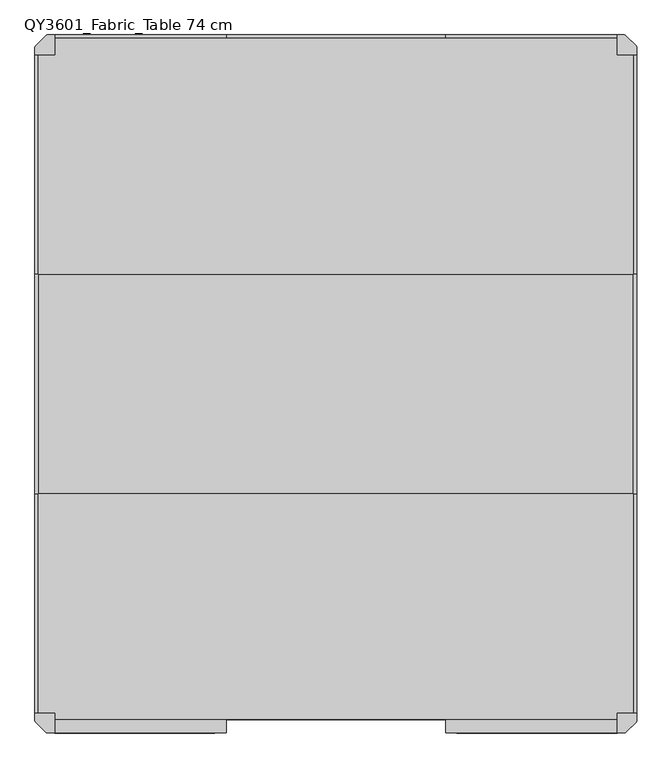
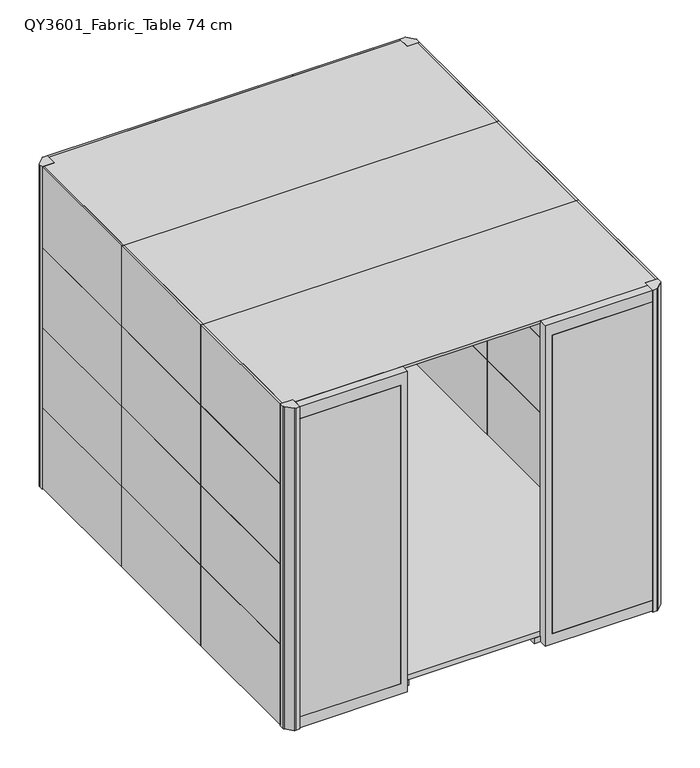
"""IFC4 building model written with IfcOpenShell, lengths in millimetres: furniture geometry, Qyos_600 : QY3601_Fabric_Table 74 cm."""

from ifc_helpers import new_model, si_unit, point, frame, frame_2d, origin, origin_with_axes, place, context, project, spatial, polyline, circle_curve, trimmed, segment, composite_curve, outline, extrude, source, transform, mapped, element, save
from ifc_brep_helpers import plane_surface, cylinder_surface, advanced_brep


def qy3601_fabric_table_74_cm_a77ddb9f(model_context):
    return source(origin(), model_context, "Body", "SolidModel", [
        advanced_brep(
        [(1048.8585356, 1272.0, 0.0), (1095.1414644, 1272.0, 0.0), (1072.0, 1272.0, 0.0), (1048.8585356, 1272.0, 7.0), (1095.1414644, 1272.0, 7.0), (1062.3615446, 1272.0, 7.0), (1081.6384554, 1272.0, 7.0), (1062.3615446, 1272.0, 17.0), (1081.6384554, 1272.0, 17.0), (1072.0, 1272.0, 17.0)],
        [
            (0, 1, circle_curve(frame((1072.0, 1272.0, 0.0), z_axis=(0.0, 0.0, -1.0), x_axis=(1.0, 0.0, 0.0)), 23.1414644)),
            (1, 2),
            (2, 0),
            (1, 0, circle_curve(frame((1072.0, 1272.0, 0.0), z_axis=(0.0, 0.0, -1.0), x_axis=(1.0, 0.0, 0.0)), 23.1414644)),
            (3, 4, circle_curve(frame((1072.0, 1272.0, 7.0), z_axis=(0.0, 0.0, -1.0), x_axis=(1.0, 0.0, 0.0)), 23.1414644)),
            (4, 1),
            (0, 3),
            (4, 3, circle_curve(frame((1072.0, 1272.0, 7.0), z_axis=(0.0, 0.0, -1.0), x_axis=(1.0, 0.0, 0.0)), 23.1414644)),
            (5, 6, circle_curve(frame((1072.0, 1272.0, 7.0), z_axis=(0.0, 0.0, -1.0), x_axis=(1.0, 0.0, 0.0)), 9.6384554)),
            (6, 4),
            (3, 5),
            (6, 5, circle_curve(frame((1072.0, 1272.0, 7.0), z_axis=(0.0, 0.0, -1.0), x_axis=(1.0, 0.0, 0.0)), 9.6384554)),
            (7, 8, circle_curve(frame((1072.0, 1272.0, 17.0), z_axis=(0.0, 0.0, -1.0), x_axis=(1.0, 0.0, 0.0)), 9.6384554)),
            (8, 6),
            (5, 7),
            (8, 7, circle_curve(frame((1072.0, 1272.0, 17.0), z_axis=(0.0, 0.0, -1.0), x_axis=(1.0, 0.0, 0.0)), 9.6384554)),
            (9, 8),
            (7, 9),
        ],
        [
            plane_surface(frame((1072.0, 1272.0, 0.0), z_axis=(0.0, 0.0, -1.0), x_axis=(1.0, 0.0, 0.0))),
            cylinder_surface(frame((1072.0, 1272.0, 1997.4144888), z_axis=(0.0, 0.0, 1.0), x_axis=(1.0, 0.0, 0.0)), 23.1414644),
            plane_surface(frame((1072.0, 1272.0, 7.0), z_axis=(0.0, 0.0, 1.0), x_axis=(1.0, 0.0, 0.0))),
            cylinder_surface(frame((1072.0, 1272.0, 1997.4144888), z_axis=(0.0, 0.0, 1.0), x_axis=(1.0, 0.0, 0.0)), 9.6384554),
            plane_surface(frame((1072.0, 1272.0, 17.0), z_axis=(0.0, 0.0, 1.0), x_axis=(1.0, 0.0, 0.0))),
        ],
        [
            (0, [[1, 2, 3]]),
            (0, [[4, -3, -2]]),
            (1, [[5, 6, -1, 7]]),
            (1, [[8, -7, -4, -6]]),
            (2, [[9, 10, -5, 11]]),
            (2, [[12, -11, -8, -10]]),
            (3, [[13, 14, -9, 15]]),
            (3, [[16, -15, -12, -14]]),
            (4, [[17, -13, 18]]),
            (4, [[-18, -16, -17]]),
        ],
    ),
        extrude(outline(composite_curve([segment(trimmed(circle_curve(frame_2d((1072.0, 1272.0)), 23.1414644), [point((1048.8585356, 1272.0))], [point((1095.1414644, 1272.0))], False, "CARTESIAN"), True, "CONTINUOUS"), segment(trimmed(circle_curve(frame_2d((1072.0, 1272.0)), 23.1414644), [point((1095.1414644, 1272.0))], [point((1048.8585356, 1272.0))], False, "CARTESIAN"), True, "CONTINUOUS")], self_intersect=False)), origin_with_axes(), (0.0, 0.0, 1.0), 7.0),
        extrude(outline(composite_curve([segment(polyline([(-1140.0, 1335.0), (-1220.0, 1335.0), (-1220.0, 1362.5536246)]), True, "CONTINUOUS"), segment(trimmed(circle_curve(frame_2d((-1208.0024364, 1362.3118252)), 12.0), [point((-1220.0, 1362.5536246))], [point((-1216.7960176, 1370.4771745))], False, "CARTESIAN"), True, "CONTINUOUS"), segment(trimmed(circle_curve(frame_2d((-638.4303831, 833.431197)), 789.2560985), [point((-1216.7960176, 1370.4771745))], [point((-1175.4763607, 1411.7968315))], False, "CARTESIAN"), True, "CONTINUOUS"), segment(trimmed(circle_curve(frame_2d((-1167.3110114, 1403.0032502)), 12.0), [point((-1175.4763607, 1411.7968315))], [point((-1167.5902872, 1415.0))], False, "CARTESIAN"), True, "CONTINUOUS"), segment(polyline([(-1167.5902872, 1415.0), (-1140.0, 1415.0), (-1140.0, 1335.0)]), True, "CONTINUOUS")], self_intersect=False)), origin_with_axes(), (0.0, 0.0, 1.0), 2202.1),
        extrude(outline(composite_curve([segment(polyline([(1140.0, 1335.0), (1140.0, 1415.0), (1167.5536246, 1415.0)]), True, "CONTINUOUS"), segment(trimmed(circle_curve(frame_2d((1167.3118252, 1403.0024364)), 12.0), [point((1167.5536246, 1415.0))], [point((1175.4771745, 1411.7960176))], False, "CARTESIAN"), True, "CONTINUOUS"), segment(trimmed(circle_curve(frame_2d((638.431197, 833.4303831)), 789.2560985), [point((1175.4771745, 1411.7960176))], [point((1216.7968315, 1370.4763607))], False, "CARTESIAN"), True, "CONTINUOUS"), segment(trimmed(circle_curve(frame_2d((1208.0032502, 1362.3110114)), 12.0), [point((1216.7968315, 1370.4763607))], [point((1220.0, 1362.5902872))], False, "CARTESIAN"), True, "CONTINUOUS"), segment(polyline([(1220.0, 1362.5902872), (1220.0, 1335.0), (1140.0, 1335.0)]), True, "CONTINUOUS")], self_intersect=False)), origin_with_axes(), (0.0, 0.0, 1.0), 2202.1),
        extrude(outline(composite_curve([segment(polyline([(1140.0, -1335.0), (1220.0, -1335.0), (1220.0, -1362.5536246)]), True, "CONTINUOUS"), segment(trimmed(circle_curve(frame_2d((1208.0024364, -1362.3118252)), 12.0), [point((1220.0, -1362.5536246))], [point((1216.7960176, -1370.4771745))], False, "CARTESIAN"), True, "CONTINUOUS"), segment(trimmed(circle_curve(frame_2d((638.4303831, -833.431197)), 789.2560985), [point((1216.7960176, -1370.4771745))], [point((1175.4763607, -1411.7968315))], False, "CARTESIAN"), True, "CONTINUOUS"), segment(trimmed(circle_curve(frame_2d((1167.3110114, -1403.0032502)), 12.0), [point((1175.4763607, -1411.7968315))], [point((1167.5902872, -1415.0))], False, "CARTESIAN"), True, "CONTINUOUS"), segment(polyline([(1167.5902872, -1415.0), (1140.0, -1415.0), (1140.0, -1335.0)]), True, "CONTINUOUS")], self_intersect=False)), origin_with_axes(), (0.0, 0.0, 1.0), 2202.1),
        extrude(outline(composite_curve([segment(polyline([(-1140.0, -1335.0), (-1140.0, -1415.0), (-1167.5536246, -1415.0)]), True, "CONTINUOUS"), segment(trimmed(circle_curve(frame_2d((-1167.3118252, -1403.0024364)), 12.0), [point((-1167.5536246, -1415.0))], [point((-1175.4771745, -1411.7960176))], False, "CARTESIAN"), True, "CONTINUOUS"), segment(trimmed(circle_curve(frame_2d((-638.431197, -833.4303831)), 789.2560985), [point((-1175.4771745, -1411.7960176))], [point((-1216.7968315, -1370.4763607))], False, "CARTESIAN"), True, "CONTINUOUS"), segment(trimmed(circle_curve(frame_2d((-1208.0032502, -1362.3110114)), 12.0), [point((-1216.7968315, -1370.4763607))], [point((-1220.0, -1362.5902872))], False, "CARTESIAN"), True, "CONTINUOUS"), segment(polyline([(-1220.0, -1362.5902872), (-1220.0, -1335.0), (-1140.0, -1335.0)]), True, "CONTINUOUS")], self_intersect=False)), origin_with_axes(), (0.0, 0.0, 1.0), 2202.1),
        extrude(outline(polyline([(-445.0, 1401.0), (445.0, 1401.0), (1140.0, 1401.0), (1140.0, 1335.0), (1206.0, 1335.0), (1206.0, 445.0), (-1206.0, 445.0), (-1206.0, 1335.0), (-1140.0, 1335.0), (-1140.0, 1401.0), (-445.0, 1401.0)])), frame((0.0, 0.0, 2186.1), z_axis=(0.0, 0.0, 1.0), x_axis=(1.0, 0.0, 0.0)), (0.0, 0.0, 1.0), 16.0),
        extrude(outline(polyline([(1140.0, 1379.0), (1140.0, 1360.0), (445.0557256, 1360.0), (445.0557256, 1379.0), (1140.0, 1379.0)])), frame((0.0, 0.0, 1617.9823403), z_axis=(0.0, 0.0, 1.0), x_axis=(1.0, 0.0, 0.0)), (0.0, 0.0, 1.0), 504.1176597),
        extrude(outline(polyline([(-1140.0, 1379.0), (-445.0, 1379.0), (-445.0, 1360.0), (-1140.0, 1360.0), (-1140.0, 1379.0)])), frame((0.0, 0.0, 1617.9823403), z_axis=(0.0, 0.0, 1.0), x_axis=(1.0, 0.0, 0.0)), (0.0, 0.0, 1.0), 504.1176597),
        extrude(outline(polyline([(1140.0, 1379.0), (1140.0, 1360.0), (445.0557256, 1360.0), (445.0557256, 1379.0), (1140.0, 1379.0)])), frame((0.0, 0.0, 1106.0116287), z_axis=(0.0, 0.0, 1.0), x_axis=(1.0, 0.0, 0.0)), (0.0, 0.0, 1.0), 511.9707116),
        extrude(outline(polyline([(-1140.0, 1379.0), (-445.0, 1379.0), (-445.0, 1360.0), (-1140.0, 1360.0), (-1140.0, 1379.0)])), frame((0.0, 0.0, 1106.0116287), z_axis=(0.0, 0.0, 1.0), x_axis=(1.0, 0.0, 0.0)), (0.0, 0.0, 1.0), 511.9707116),
        extrude(outline(polyline([(1140.0, 1379.0), (1140.0, 1360.0), (445.0557256, 1360.0), (445.0557256, 1379.0), (1140.0, 1379.0)])), frame((0.0, 0.0, 593.9823403), z_axis=(0.0, 0.0, 1.0), x_axis=(1.0, 0.0, 0.0)), (0.0, 0.0, 1.0), 512.0292884),
        extrude(outline(polyline([(-1140.0, 1379.0), (-445.0, 1379.0), (-445.0, 1360.0), (-1140.0, 1360.0), (-1140.0, 1379.0)])), frame((0.0, 0.0, 593.9823403), z_axis=(0.0, 0.0, 1.0), x_axis=(1.0, 0.0, 0.0)), (0.0, 0.0, 1.0), 512.0292884),
        extrude(outline(polyline([(-445.0, 1415.0), (-445.0, 1401.0), (-1140.0, 1401.0), (-1140.0, 1415.0), (-445.0, 1415.0)])), frame((0.0, 0.0, 1654.0116287), z_axis=(0.0, 0.0, 1.0), x_axis=(1.0, 0.0, 0.0)), (0.0, 0.0, 1.0), 548.0883713),
        extrude(outline(polyline([(1140.0, 1401.0), (445.0557256, 1401.0), (445.0557256, 1415.0), (1140.0, 1415.0), (1140.0, 1401.0)])), frame((0.0, 0.0, 1654.0116287), z_axis=(0.0, 0.0, 1.0), x_axis=(1.0, 0.0, 0.0)), (0.0, 0.0, 1.0), 548.0883713),
        extrude(outline(polyline([(-445.0, 1415.0), (-445.0, 1401.0), (-1140.0, 1401.0), (-1140.0, 1415.0), (-445.0, 1415.0)])), frame((0.0, 0.0, 1106.0116287), z_axis=(0.0, 0.0, 1.0), x_axis=(1.0, 0.0, 0.0)), (0.0, 0.0, 1.0), 548.0),
        extrude(outline(polyline([(1140.0, 1401.0), (445.0557256, 1401.0), (445.0557256, 1415.0), (1140.0, 1415.0), (1140.0, 1401.0)])), frame((0.0, 0.0, 1106.0116287), z_axis=(0.0, 0.0, 1.0), x_axis=(1.0, 0.0, 0.0)), (0.0, 0.0, 1.0), 548.0),
        extrude(outline(polyline([(-445.0, 1415.0), (-445.0, 1401.0), (-1140.0, 1401.0), (-1140.0, 1415.0), (-445.0, 1415.0)])), frame((0.0, 0.0, 558.0116287), z_axis=(0.0, 0.0, 1.0), x_axis=(1.0, 0.0, 0.0)), (0.0, 0.0, 1.0), 548.0),
        extrude(outline(polyline([(1140.0, 1401.0), (445.0557256, 1401.0), (445.0557256, 1415.0), (1140.0, 1415.0), (1140.0, 1401.0)])), frame((0.0, 0.0, 558.0116287), z_axis=(0.0, 0.0, 1.0), x_axis=(1.0, 0.0, 0.0)), (0.0, 0.0, 1.0), 548.0),
        extrude(outline(polyline([(-445.0, 1415.0), (-445.0, 1401.0), (-1140.0, 1401.0), (-1140.0, 1415.0), (-445.0, 1415.0)])), frame((0.0, 0.0, 10.0), z_axis=(0.0, 0.0, 1.0), x_axis=(1.0, 0.0, 0.0)), (0.0, 0.0, 1.0), 548.0116287),
        extrude(outline(polyline([(1140.0, 1401.0), (445.0557256, 1401.0), (445.0557256, 1415.0), (1140.0, 1415.0), (1140.0, 1401.0)])), frame((0.0, 0.0, 10.0), z_axis=(0.0, 0.0, 1.0), x_axis=(1.0, 0.0, 0.0)), (0.0, 0.0, 1.0), 548.0116287),
        extrude(outline(polyline([(1140.0, 1379.0), (1140.0, 1360.0), (445.0557256, 1360.0), (445.0557256, 1379.0), (1140.0, 1379.0)])), frame((0.0, 0.0, 77.0), z_axis=(0.0, 0.0, 1.0), x_axis=(1.0, 0.0, 0.0)), (0.0, 0.0, 1.0), 516.9823403),
        extrude(outline(polyline([(-1140.0, 1379.0), (-445.0, 1379.0), (-445.0, 1360.0), (-1140.0, 1360.0), (-1140.0, 1379.0)])), frame((0.0, 0.0, 77.0), z_axis=(0.0, 0.0, 1.0), x_axis=(1.0, 0.0, 0.0)), (0.0, 0.0, 1.0), 516.9823403),
        extrude(outline(polyline([(1206.0, -445.0), (1206.0, -1335.0), (1140.0, -1335.0), (1140.0, -1359.9956819), (-1140.0, -1359.9956819), (-1140.0, -1335.0), (-1206.0, -1335.0), (-1206.0, -445.0), (1206.0, -445.0)])), frame((0.0, 0.0, 2186.1), z_axis=(0.0, 0.0, 1.0), x_axis=(1.0, 0.0, 0.0)), (0.0, 0.0, 1.0), 16.0),
        extrude(outline(polyline([(1165.0, -1335.0), (1146.0, -1335.0), (1146.0, -445.0), (1165.0, -445.0), (1165.0, -1335.0)])), frame((0.0, 0.0, 77.0), z_axis=(0.0, 0.0, 1.0), x_axis=(1.0, 0.0, 0.0)), (0.0, 0.0, 1.0), 516.9823403),
        extrude(outline(polyline([(-1165.0, -1335.0), (-1165.0, -445.0), (-1146.0, -445.0), (-1146.0, -1335.0), (-1165.0, -1335.0)])), frame((0.0, 0.0, 77.0), z_axis=(0.0, 0.0, 1.0), x_axis=(1.0, 0.0, 0.0)), (0.0, 0.0, 1.0), 516.9823403),
        extrude(outline(polyline([(1165.0, -1335.0), (1146.0, -1335.0), (1146.0, -445.0), (1165.0, -445.0), (1165.0, -1335.0)])), frame((0.0, 0.0, 593.9823403), z_axis=(0.0, 0.0, 1.0), x_axis=(1.0, 0.0, 0.0)), (0.0, 0.0, 1.0), 512.0292884),
        extrude(outline(polyline([(-1165.0, -1335.0), (-1165.0, -445.0), (-1146.0, -445.0), (-1146.0, -1335.0), (-1165.0, -1335.0)])), frame((0.0, 0.0, 593.9823403), z_axis=(0.0, 0.0, 1.0), x_axis=(1.0, 0.0, 0.0)), (0.0, 0.0, 1.0), 512.0292884),
        extrude(outline(polyline([(1165.0, -1335.0), (1146.0, -1335.0), (1146.0, -445.0), (1165.0, -445.0), (1165.0, -1335.0)])), frame((0.0, 0.0, 1106.0116287), z_axis=(0.0, 0.0, 1.0), x_axis=(1.0, 0.0, 0.0)), (0.0, 0.0, 1.0), 511.9707116),
        extrude(outline(polyline([(-1165.0, -1335.0), (-1165.0, -445.0), (-1146.0, -445.0), (-1146.0, -1335.0), (-1165.0, -1335.0)])), frame((0.0, 0.0, 1106.0116287), z_axis=(0.0, 0.0, 1.0), x_axis=(1.0, 0.0, 0.0)), (0.0, 0.0, 1.0), 511.9707116),
        extrude(outline(polyline([(1165.0, -1335.0), (1146.0, -1335.0), (1146.0, -445.0), (1165.0, -445.0), (1165.0, -1335.0)])), frame((0.0, 0.0, 1617.9823403), z_axis=(0.0, 0.0, 1.0), x_axis=(1.0, 0.0, 0.0)), (0.0, 0.0, 1.0), 504.1176597),
        extrude(outline(polyline([(-1165.0, -1335.0), (-1165.0, -445.0), (-1146.0, -445.0), (-1146.0, -1335.0), (-1165.0, -1335.0)])), frame((0.0, 0.0, 1617.9823403), z_axis=(0.0, 0.0, 1.0), x_axis=(1.0, 0.0, 0.0)), (0.0, 0.0, 1.0), 504.1176597),
        extrude(outline(polyline([(1165.0, -445.0), (1146.0, -445.0), (1146.0, 445.0), (1165.0, 445.0), (1165.0, -445.0)])), frame((0.0, 0.0, 1617.9823403), z_axis=(0.0, 0.0, 1.0), x_axis=(1.0, 0.0, 0.0)), (0.0, 0.0, 1.0), 504.1176597),
        extrude(outline(polyline([(-1165.0, -445.0), (-1165.0, 445.0), (-1146.0, 445.0), (-1146.0, -445.0), (-1165.0, -445.0)])), frame((0.0, 0.0, 1617.9823403), z_axis=(0.0, 0.0, 1.0), x_axis=(1.0, 0.0, 0.0)), (0.0, 0.0, 1.0), 504.1176597),
        extrude(outline(polyline([(1165.0, -445.0), (1146.0, -445.0), (1146.0, 445.0), (1165.0, 445.0), (1165.0, -445.0)])), frame((0.0, 0.0, 1106.0116287), z_axis=(0.0, 0.0, 1.0), x_axis=(1.0, 0.0, 0.0)), (0.0, 0.0, 1.0), 511.9707116),
        extrude(outline(polyline([(-1165.0, -445.0), (-1165.0, 445.0), (-1146.0, 445.0), (-1146.0, -445.0), (-1165.0, -445.0)])), frame((0.0, 0.0, 1106.0116287), z_axis=(0.0, 0.0, 1.0), x_axis=(1.0, 0.0, 0.0)), (0.0, 0.0, 1.0), 511.9707116),
        extrude(outline(polyline([(1165.0, -445.0), (1146.0, -445.0), (1146.0, 445.0), (1165.0, 445.0), (1165.0, -445.0)])), frame((0.0, 0.0, 593.9823403), z_axis=(0.0, 0.0, 1.0), x_axis=(1.0, 0.0, 0.0)), (0.0, 0.0, 1.0), 512.0292884),
        extrude(outline(polyline([(-1165.0, -445.0), (-1165.0, 445.0), (-1146.0, 445.0), (-1146.0, -445.0), (-1165.0, -445.0)])), frame((0.0, 0.0, 593.9823403), z_axis=(0.0, 0.0, 1.0), x_axis=(1.0, 0.0, 0.0)), (0.0, 0.0, 1.0), 512.0292884),
        extrude(outline(polyline([(1165.0, 445.0), (1146.0, 445.0), (1146.0, 1335.0), (1165.0, 1335.0), (1165.0, 445.0)])), frame((0.0, 0.0, 77.0), z_axis=(0.0, 0.0, 1.0), x_axis=(1.0, 0.0, 0.0)), (0.0, 0.0, 1.0), 516.9823403),
        extrude(outline(polyline([(-1165.0, 445.0), (-1165.0, 1335.0), (-1146.0, 1335.0), (-1146.0, 445.0), (-1165.0, 445.0)])), frame((0.0, 0.0, 77.0), z_axis=(0.0, 0.0, 1.0), x_axis=(1.0, 0.0, 0.0)), (0.0, 0.0, 1.0), 516.9823403),
        extrude(outline(polyline([(-445.0, 1360.0), (-445.0, 1379.0), (445.0557256, 1379.0), (445.0557256, 1360.0), (-445.0, 1360.0)])), frame((0.0, 0.0, 77.0), z_axis=(0.0, 0.0, 1.0), x_axis=(1.0, 0.0, 0.0)), (0.0, 0.0, 1.0), 516.9823403),
        extrude(outline(polyline([(-1220.0, -445.0), (-1220.0, 445.0), (-1206.0, 445.0), (-1206.0, -445.0), (-1220.0, -445.0)])), frame((0.0, 0.0, 10.0), z_axis=(0.0, 0.0, 1.0), x_axis=(1.0, 0.0, 0.0)), (0.0, 0.0, 1.0), 548.0116287),
        extrude(outline(polyline([(1220.0, -445.0), (1206.0, -445.0), (1206.0, 445.0), (1220.0, 445.0), (1220.0, -445.0)])), frame((0.0, 0.0, 10.0), z_axis=(0.0, 0.0, 1.0), x_axis=(1.0, 0.0, 0.0)), (0.0, 0.0, 1.0), 548.0116287),
        extrude(outline(polyline([(-1220.0, -445.0), (-1220.0, 445.0), (-1206.0, 445.0), (-1206.0, -445.0), (-1220.0, -445.0)])), frame((0.0, 0.0, 558.0116287), z_axis=(0.0, 0.0, 1.0), x_axis=(1.0, 0.0, 0.0)), (0.0, 0.0, 1.0), 548.0),
        extrude(outline(polyline([(1220.0, -445.0), (1206.0, -445.0), (1206.0, 445.0), (1220.0, 445.0), (1220.0, -445.0)])), frame((0.0, 0.0, 558.0116287), z_axis=(0.0, 0.0, 1.0), x_axis=(1.0, 0.0, 0.0)), (0.0, 0.0, 1.0), 548.0),
        extrude(outline(polyline([(-1220.0, -445.0), (-1220.0, 445.0), (-1206.0, 445.0), (-1206.0, -445.0), (-1220.0, -445.0)])), frame((0.0, 0.0, 1106.0116287), z_axis=(0.0, 0.0, 1.0), x_axis=(1.0, 0.0, 0.0)), (0.0, 0.0, 1.0), 548.0),
        extrude(outline(polyline([(1220.0, -445.0), (1206.0, -445.0), (1206.0, 445.0), (1220.0, 445.0), (1220.0, -445.0)])), frame((0.0, 0.0, 1106.0116287), z_axis=(0.0, 0.0, 1.0), x_axis=(1.0, 0.0, 0.0)), (0.0, 0.0, 1.0), 548.0),
        extrude(outline(polyline([(-1220.0, -445.0), (-1220.0, 445.0), (-1206.0, 445.0), (-1206.0, -445.0), (-1220.0, -445.0)])), frame((0.0, 0.0, 1654.0116287), z_axis=(0.0, 0.0, 1.0), x_axis=(1.0, 0.0, 0.0)), (0.0, 0.0, 1.0), 548.0883713),
        extrude(outline(polyline([(1220.0, -445.0), (1206.0, -445.0), (1206.0, 445.0), (1220.0, 445.0), (1220.0, -445.0)])), frame((0.0, 0.0, 1654.0116287), z_axis=(0.0, 0.0, 1.0), x_axis=(1.0, 0.0, 0.0)), (0.0, 0.0, 1.0), 548.0883713),
        extrude(outline(polyline([(-1220.0, -1335.0), (-1220.0, -445.0), (-1206.0, -445.0), (-1206.0, -1335.0), (-1220.0, -1335.0)])), frame((0.0, 0.0, 10.0), z_axis=(0.0, 0.0, 1.0), x_axis=(1.0, 0.0, 0.0)), (0.0, 0.0, 1.0), 548.0116287),
        extrude(outline(polyline([(1220.0, -1335.0), (1206.0, -1335.0), (1206.0, -445.0), (1220.0, -445.0), (1220.0, -1335.0)])), frame((0.0, 0.0, 10.0), z_axis=(0.0, 0.0, 1.0), x_axis=(1.0, 0.0, 0.0)), (0.0, 0.0, 1.0), 548.0116287),
        extrude(outline(polyline([(-1220.0, -1335.0), (-1220.0, -445.0), (-1206.0, -445.0), (-1206.0, -1335.0), (-1220.0, -1335.0)])), frame((0.0, 0.0, 558.0116287), z_axis=(0.0, 0.0, 1.0), x_axis=(1.0, 0.0, 0.0)), (0.0, 0.0, 1.0), 548.0),
        extrude(outline(polyline([(1220.0, -1335.0), (1206.0, -1335.0), (1206.0, -445.0), (1220.0, -445.0), (1220.0, -1335.0)])), frame((0.0, 0.0, 558.0116287), z_axis=(0.0, 0.0, 1.0), x_axis=(1.0, 0.0, 0.0)), (0.0, 0.0, 1.0), 548.0),
        extrude(outline(polyline([(-1220.0, -1335.0), (-1220.0, -445.0), (-1206.0, -445.0), (-1206.0, -1335.0), (-1220.0, -1335.0)])), frame((0.0, 0.0, 1106.0116287), z_axis=(0.0, 0.0, 1.0), x_axis=(1.0, 0.0, 0.0)), (0.0, 0.0, 1.0), 548.0),
        extrude(outline(polyline([(1220.0, -1335.0), (1206.0, -1335.0), (1206.0, -445.0), (1220.0, -445.0), (1220.0, -1335.0)])), frame((0.0, 0.0, 1106.0116287), z_axis=(0.0, 0.0, 1.0), x_axis=(1.0, 0.0, 0.0)), (0.0, 0.0, 1.0), 548.0),
        extrude(outline(polyline([(-1220.0, -1335.0), (-1220.0, -445.0), (-1206.0, -445.0), (-1206.0, -1335.0), (-1220.0, -1335.0)])), frame((0.0, 0.0, 1654.0116287), z_axis=(0.0, 0.0, 1.0), x_axis=(1.0, 0.0, 0.0)), (0.0, 0.0, 1.0), 548.0883713),
        extrude(outline(polyline([(1220.0, -1335.0), (1206.0, -1335.0), (1206.0, -445.0), (1220.0, -445.0), (1220.0, -1335.0)])), frame((0.0, 0.0, 1654.0116287), z_axis=(0.0, 0.0, 1.0), x_axis=(1.0, 0.0, 0.0)), (0.0, 0.0, 1.0), 548.0883713),
        extrude(outline(polyline([(-1220.0, 445.0), (-1220.0, 1335.0), (-1206.0, 1335.0), (-1206.0, 445.0), (-1220.0, 445.0)])), frame((0.0, 0.0, 1654.0116287), z_axis=(0.0, 0.0, 1.0), x_axis=(1.0, 0.0, 0.0)), (0.0, 0.0, 1.0), 548.0883713),
        extrude(outline(polyline([(1220.0, 445.0), (1206.0, 445.0), (1206.0, 1335.0), (1220.0, 1335.0), (1220.0, 445.0)])), frame((0.0, 0.0, 1654.0116287), z_axis=(0.0, 0.0, 1.0), x_axis=(1.0, 0.0, 0.0)), (0.0, 0.0, 1.0), 548.0883713),
        extrude(outline(polyline([(445.0557256, 1415.0), (445.0557256, 1401.0), (-445.0, 1401.0), (-445.0, 1415.0), (445.0557256, 1415.0)])), frame((0.0, 0.0, 1654.0116287), z_axis=(0.0, 0.0, 1.0), x_axis=(1.0, 0.0, 0.0)), (0.0, 0.0, 1.0), 548.0883713),
        extrude(outline(polyline([(1206.0, 445.0), (1206.0, -445.0), (-1206.0, -445.0), (-1206.0, 445.0), (1206.0, 445.0)])), frame((0.0, 0.0, 2186.1), z_axis=(0.0, 0.0, 1.0), x_axis=(1.0, 0.0, 0.0)), (0.0, 0.0, 1.0), 16.0),
        extrude(outline(polyline([(-490.0089845, -1415.0), (-1140.0, -1415.0), (-1140.0, -1410.0), (-490.0089845, -1410.0), (-490.0089845, -1415.0)])), frame((0.0, 0.0, 82.0), z_axis=(0.0, 0.0, 1.0), x_axis=(1.0, 0.0, 0.0)), (0.0, 0.0, 1.0), 2040.1),
        extrude(outline(polyline([(1140.0, -1415.0), (490.0089845, -1415.0), (490.0089845, -1410.0), (1140.0, -1410.0), (1140.0, -1415.0)])), frame((0.0, 0.0, 82.0), z_axis=(0.0, 0.0, 1.0), x_axis=(1.0, 0.0, 0.0)), (0.0, 0.0, 1.0), 2040.1),
        extrude(outline(polyline([(-1052.0, -1359.9956819), (-1092.0, -1359.9956819), (-1092.0, 1360.0), (-1052.0, 1360.0), (-1052.0, -1359.9956819)])), frame((0.0, 0.0, 10.0), z_axis=(0.0, 0.0, 1.0), x_axis=(1.0, 0.0, 0.0)), (0.0, 0.0, 1.0), 37.0),
        extrude(outline(polyline([(-405.0, -1359.9956819), (-445.0, -1359.9956819), (-445.0, 1360.0), (-405.0, 1360.0), (-405.0, -1359.9956819)])), frame((0.0, 0.0, 10.0), z_axis=(0.0, 0.0, 1.0), x_axis=(1.0, 0.0, 0.0)), (0.0, 0.0, 1.0), 37.0),
        extrude(outline(polyline([(1092.0, -1359.9956819), (1052.0, -1359.9956819), (1052.0, 1360.0), (1092.0, 1360.0), (1092.0, -1359.9956819)])), frame((0.0, 0.0, 10.0), z_axis=(0.0, 0.0, 1.0), x_axis=(1.0, 0.0, 0.0)), (0.0, 0.0, 1.0), 37.0),
        extrude(outline(polyline([(405.0, 1360.0), (450.2080274, 1360.0), (450.2080274, -1359.9956819), (405.0, -1359.9956819), (405.0, 1360.0)])), frame((0.0, 0.0, 10.0), z_axis=(0.0, 0.0, 1.0), x_axis=(1.0, 0.0, 0.0)), (0.0, 0.0, 1.0), 37.0),
        extrude(outline(polyline([(2122.1, -490.0089845), (82.0, -490.0089845), (82.0, -1140.0), (10.0, -1140.0), (10.0, -445.0), (2202.1, -445.0), (2202.1, -1140.0), (2122.1, -1140.0), (2122.1, -490.0089845)])), frame((0.0, -1415.0, 0.0), z_axis=(0.0, 1.0, 0.0), x_axis=(0.0, 0.0, 1.0)), (0.0, 0.0, 1.0), 55.0043181),
        extrude(outline(polyline([(2122.1, 490.0089845), (2122.1, 1140.0), (2202.1, 1140.0), (2202.1, 445.0), (10.0, 445.0), (10.0, 1140.0), (82.0, 1140.0), (82.0, 490.0089845), (2122.1, 490.0089845)])), frame((0.0, -1415.0, 0.0), z_axis=(0.0, 1.0, 0.0), x_axis=(0.0, 0.0, 1.0)), (0.0, 0.0, 1.0), 55.0043181),
        extrude(outline(polyline([(-1146.0, 1335.0), (-1140.0, 1335.0), (-1140.0, 1360.0), (1140.0, 1360.0), (1140.0, 1335.0), (1146.0, 1335.0), (1146.0, -1335.0), (1140.0, -1335.0), (1140.0, -1359.9956819), (-1140.0, -1359.9956819), (-1140.0, -1335.0), (-1146.0, -1335.0), (-1146.0, 1335.0)])), frame((0.0, 0.0, 47.0), z_axis=(0.0, 0.0, 1.0), x_axis=(1.0, 0.0, 0.0)), (0.0, 0.0, 1.0), 35.0),
        extrude(outline(polyline([(1165.0, 445.0), (1146.0, 445.0), (1146.0, 1335.0024364), (1165.0, 1335.0024364), (1165.0, 445.0)])), frame((0.0, 0.0, 1617.9823403), z_axis=(0.0, 0.0, 1.0), x_axis=(1.0, 0.0, 0.0)), (0.0, 0.0, 1.0), 504.1176597),
        extrude(outline(polyline([(-1165.0, 445.0), (-1165.0, 1335.0), (-1146.0, 1335.0), (-1146.0, 445.0), (-1165.0, 445.0)])), frame((0.0, 0.0, 1617.9823403), z_axis=(0.0, 0.0, 1.0), x_axis=(1.0, 0.0, 0.0)), (0.0, 0.0, 1.0), 504.1176597),
        extrude(outline(polyline([(-445.0, 1360.0), (-445.0, 1379.0), (445.0557256, 1379.0), (445.0557256, 1360.0), (-445.0, 1360.0)])), frame((0.0, 0.0, 1617.9823403), z_axis=(0.0, 0.0, 1.0), x_axis=(1.0, 0.0, 0.0)), (0.0, 0.0, 1.0), 504.1176597),
        extrude(outline(polyline([(1165.0, 445.0), (1146.0, 445.0), (1146.0, 1335.0), (1165.0, 1335.0), (1165.0, 445.0)])), frame((0.0, 0.0, 1106.0116287), z_axis=(0.0, 0.0, 1.0), x_axis=(1.0, 0.0, 0.0)), (0.0, 0.0, 1.0), 511.9707116),
        extrude(outline(polyline([(-1165.0, 445.0), (-1165.0, 1335.0), (-1146.0, 1335.0), (-1146.0, 445.0), (-1165.0, 445.0)])), frame((0.0, 0.0, 1106.0116287), z_axis=(0.0, 0.0, 1.0), x_axis=(1.0, 0.0, 0.0)), (0.0, 0.0, 1.0), 511.9707116),
        extrude(outline(polyline([(-445.0, 1360.0), (-445.0, 1379.0), (445.0557256, 1379.0), (445.0557256, 1360.0), (-445.0, 1360.0)])), frame((0.0, 0.0, 1106.0116287), z_axis=(0.0, 0.0, 1.0), x_axis=(1.0, 0.0, 0.0)), (0.0, 0.0, 1.0), 511.9707116),
        extrude(outline(polyline([(1165.0, 445.0), (1146.0, 445.0), (1146.0, 1335.0), (1165.0, 1335.0), (1165.0, 445.0)])), frame((0.0, 0.0, 593.9823403), z_axis=(0.0, 0.0, 1.0), x_axis=(1.0, 0.0, 0.0)), (0.0, 0.0, 1.0), 512.0292884),
        extrude(outline(polyline([(-1165.0, 445.0), (-1165.0, 1335.0), (-1146.0, 1335.0), (-1146.0, 445.0), (-1165.0, 445.0)])), frame((0.0, 0.0, 593.9823403), z_axis=(0.0, 0.0, 1.0), x_axis=(1.0, 0.0, 0.0)), (0.0, 0.0, 1.0), 512.0292884),
        extrude(outline(polyline([(-445.0, 1360.0), (-445.0, 1379.0), (445.0557256, 1379.0), (445.0557256, 1360.0), (-445.0, 1360.0)])), frame((0.0, 0.0, 593.9823403), z_axis=(0.0, 0.0, 1.0), x_axis=(1.0, 0.0, 0.0)), (0.0, 0.0, 1.0), 512.0292884),
        extrude(outline(polyline([(1165.0, -445.0), (1146.0, -445.0), (1146.0, 445.0), (1165.0, 445.0), (1165.0, -445.0)])), frame((0.0, 0.0, 77.0), z_axis=(0.0, 0.0, 1.0), x_axis=(1.0, 0.0, 0.0)), (0.0, 0.0, 1.0), 516.9823403),
        extrude(outline(polyline([(-1165.0, -445.0), (-1165.0, 445.0), (-1146.0, 445.0), (-1146.0, -445.0), (-1165.0, -445.0)])), frame((0.0, 0.0, 77.0), z_axis=(0.0, 0.0, 1.0), x_axis=(1.0, 0.0, 0.0)), (0.0, 0.0, 1.0), 516.9823403),
        extrude(outline(polyline([(-1220.0, 445.0), (-1220.0, 1335.0), (-1206.0, 1335.0), (-1206.0, 445.0), (-1220.0, 445.0)])), frame((0.0, 0.0, 1106.0116287), z_axis=(0.0, 0.0, 1.0), x_axis=(1.0, 0.0, 0.0)), (0.0, 0.0, 1.0), 548.0),
        extrude(outline(polyline([(1220.0, 445.0), (1206.0, 445.0), (1206.0, 1335.0), (1220.0, 1335.0), (1220.0, 445.0)])), frame((0.0, 0.0, 1106.0116287), z_axis=(0.0, 0.0, 1.0), x_axis=(1.0, 0.0, 0.0)), (0.0, 0.0, 1.0), 548.0),
        extrude(outline(polyline([(445.0557256, 1415.0), (445.0557256, 1401.0), (-445.0, 1401.0), (-445.0, 1415.0), (445.0557256, 1415.0)])), frame((0.0, 0.0, 1106.0116287), z_axis=(0.0, 0.0, 1.0), x_axis=(1.0, 0.0, 0.0)), (0.0, 0.0, 1.0), 548.0),
        extrude(outline(polyline([(-1220.0, 445.0), (-1220.0, 1335.0), (-1206.0, 1335.0), (-1206.0, 445.0), (-1220.0, 445.0)])), frame((0.0, 0.0, 558.0116287), z_axis=(0.0, 0.0, 1.0), x_axis=(1.0, 0.0, 0.0)), (0.0, 0.0, 1.0), 548.0),
        extrude(outline(polyline([(1220.0, 445.0), (1206.0, 445.0), (1206.0, 1335.0), (1220.0, 1335.0), (1220.0, 445.0)])), frame((0.0, 0.0, 558.0116287), z_axis=(0.0, 0.0, 1.0), x_axis=(1.0, 0.0, 0.0)), (0.0, 0.0, 1.0), 548.0),
        extrude(outline(polyline([(445.0557256, 1415.0), (445.0557256, 1401.0), (-445.0, 1401.0), (-445.0, 1415.0), (445.0557256, 1415.0)])), frame((0.0, 0.0, 558.0116287), z_axis=(0.0, 0.0, 1.0), x_axis=(1.0, 0.0, 0.0)), (0.0, 0.0, 1.0), 548.0),
        extrude(outline(polyline([(-1220.0, 445.0), (-1220.0, 1335.0), (-1206.0, 1335.0), (-1206.0, 445.0), (-1220.0, 445.0)])), frame((0.0, 0.0, 10.0), z_axis=(0.0, 0.0, 1.0), x_axis=(1.0, 0.0, 0.0)), (0.0, 0.0, 1.0), 548.0116287),
        extrude(outline(polyline([(1220.0, 445.0), (1206.0, 445.0), (1206.0, 1335.0), (1220.0, 1335.0), (1220.0, 445.0)])), frame((0.0, 0.0, 10.0), z_axis=(0.0, 0.0, 1.0), x_axis=(1.0, 0.0, 0.0)), (0.0, 0.0, 1.0), 548.0116287),
        extrude(outline(polyline([(445.0557256, 1415.0), (445.0557256, 1401.0), (-445.0, 1401.0), (-445.0, 1415.0), (445.0557256, 1415.0)])), frame((0.0, 0.0, 10.0), z_axis=(0.0, 0.0, 1.0), x_axis=(1.0, 0.0, 0.0)), (0.0, 0.0, 1.0), 548.0116287),
    ])


if __name__ == "__main__":
    model = new_model("IFC4")
    model_context = context("Model", 3, world=origin())
    ifc_project = project(units=[si_unit("LENGTHUNIT", "METRE", prefix="MILLI")], contexts=[model_context])
    site = spatial("IfcSite", under=ifc_project)
    building = spatial("IfcBuilding", under=site)
    placement = place(None, origin())
    qy3601_fabric_table_74_cm_shape = qy3601_fabric_table_74_cm_a77ddb9f(model_context)
    element("IfcFurniture", 1, ObjectType="Qyos_600 : QY3601_Fabric_Table 74 cm", at=placement, inside=building, context=model_context, shape_type="MappedRepresentation", body=[
        mapped(qy3601_fabric_table_74_cm_shape, transform((0.0, 0.0, 0.0), x_axis=(1.0, 0.0, 0.0), y_axis=(0.0, 1.0, 0.0), z_axis=(0.0, 0.0, 1.0))),
    ])
    save(model, "model.ifc")
